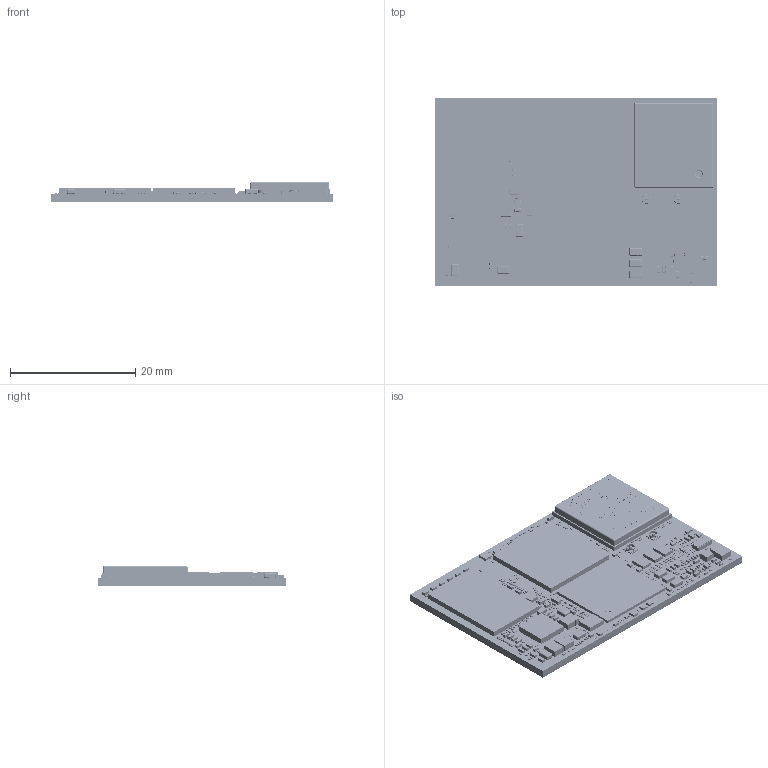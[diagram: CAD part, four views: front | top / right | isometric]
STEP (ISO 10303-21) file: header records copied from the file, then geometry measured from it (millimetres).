
FILE_DESCRIPTION(('Open CASCADE Model'),'2;1');
FILE_NAME('Open CASCADE Shape Model','2026-01-15T12:55:33',('Author'),( 'Open CASCADE'),'Open CASCADE STEP processor 7.5','Open CASCADE 7.5' ,'Unknown');
FILE_SCHEMA(('AUTOMOTIVE_DESIGN { 1 0 10303 214 1 1 1 1 }'));
Length unit declared in the file: millimetre
Products named in the file (615): PCB; Board; Open CASCADE STEP translator 7.5 1.1.1; U7; 453-00134; 940-00253; 750-03229___; 110-00693_CS-DOC-000012673(HW REV.:Q2.2); J5; c-2334884-1-a2-3d; J4; C198; CAP_CL02_SAM; C197; C196; C195; C194; C193; C192; R167; 01005_PAN; D1; 8614830672; R166; R125; Q12; CST3C_z90; Component1; Component2; Component3; Component4; R165; R164; R163; R162; R161; R160; R152; R151; R148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
Assembly tree (1010 placements, depth 5):
  PCB
    Board
      Open CASCADE STEP translator 7.5 1.1.1
    U7
      453-00134
        940-00253
          750-03229___
          110-00693_CS-DOC-000012673(HW REV.:Q2.2)
    J5
      c-2334884-1-a2-3d
    J4
      c-2334884-1-a2-3d
    C198
      CAP_CL02_SAM
    C197
      CAP_CL02_SAM
    C196
      CAP_CL02_SAM
    C195
      CAP_CL02_SAM
    C194
      CAP_CL02_SAM
    C193
      CAP_CL02_SAM
    C192
      CAP_CL02_SAM
    R167
      01005_PAN
    D1
      8614830672
    R166
      01005_PAN
    R125
      01005_PAN
    Q12
      CST3C_z90
        Component1
        Component2
        Component3
        Component4
    R165
      01005_PAN
    R164
      01005_PAN
    R163
      01005_PAN
    R162
      01005_PAN
    R161
      01005_PAN
    R160
      01005_PAN
    R152
      01005_PAN
    R151
      01005_PAN
    R148
      01005_PAN
    R146
      01005_PAN
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Bounding box: 45 x 30 x 3.15 mm (x, y, z)
Volume: 2384.4 mm3; surface area: 6136.6 mm2
Topology: 2193 solids, 2403 shells, 22160 faces, 51010 edges, 30534 vertices
Faces by surface type: plane 15782, cylinder 3599, bspline 2192, sphere 569, cone 12, torus 6
Full cylindrical faces by diameter (mm): 0.032 x1, 0.099 x1, 0.255 x1, 1.438 x1
Entity records: 353139 total; most frequent: CARTESIAN_POINT 97443, DIRECTION 38799, ORIENTED_EDGE 38702, EDGE_CURVE 19567, LINE 13029, VECTOR 13029, AXIS2_PLACEMENT_3D 12885, VERTEX_POINT 12600
